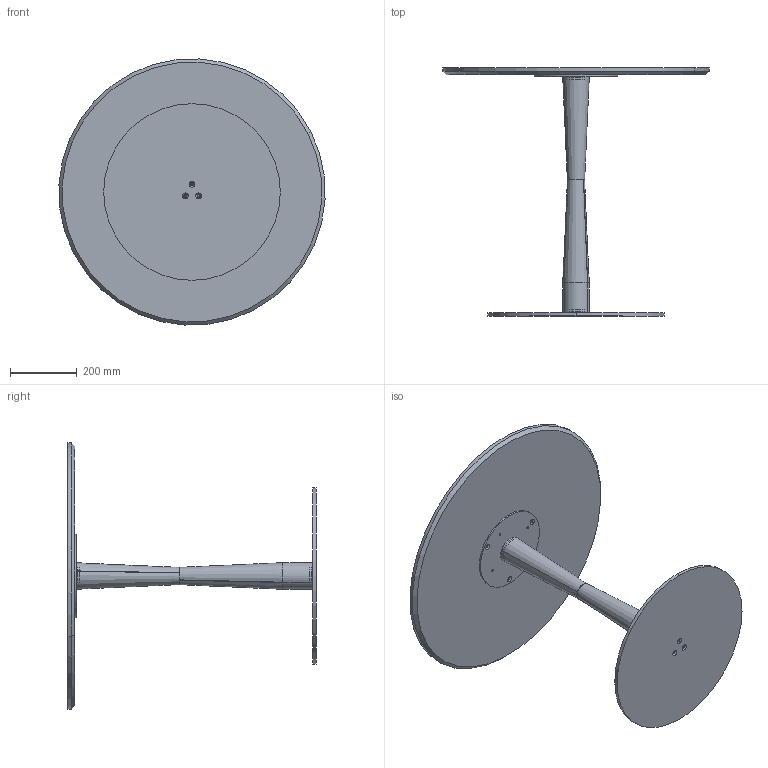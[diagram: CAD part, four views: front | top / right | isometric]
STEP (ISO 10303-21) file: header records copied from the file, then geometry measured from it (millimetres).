
FILE_DESCRIPTION (( 'STEP AP203' ), '1' );
FILE_NAME ('FI20M.STEP', '2024-08-08T08:00:22', ( '' ), ( '' ), 'SwSTEP 2.0', 'SolidWorks 2022', '' );
FILE_SCHEMA (( 'CONFIG_CONTROL_DESIGN' ));
Length unit declared in the file: millimetre
Products named in the file (8): CBS000000BAS-00-BISTRO PIASTRA INFERIORE_D.530; CBS200000PST-00-CONTROPIASTRA PER PIASTRA D.25cm GREZZO_250; FIL000000_02-00-Tubo Conificato inferiore_tagliato; FIL000000_01-00-Tubo Conificato superiore_tagliato; FIL000000COL-01-FILU'' COLONNA CENTRALE; M0X-00- D. piani marmo_D.800; FIL000000_03-00-Piastra per Tubi conificati FILU; FI20M
Assembly tree (8 placements, depth 3):
  FI20M
    CBS000000BAS-00-BISTRO PIASTRA INFERIORE_D.530
    CBS200000PST-00-CONTROPIASTRA PER PIASTRA D.25cm GREZZO_250
    FIL000000COL-01-FILU'' COLONNA CENTRALE
      FIL000000_02-00-Tubo Conificato inferiore_tagliato
      FIL000000_01-00-Tubo Conificato superiore_tagliato
      FIL000000_03-00-Piastra per Tubi conificati FILU  x2
    M0X-00- D. piani marmo_D.800
Bounding box: 798.83 x 745 x 798.83 mm (x, y, z)
Volume: 12706521.4 mm3; surface area: 1917875.2 mm2
Topology: 7 solids, 7 shells, 120 faces, 278 edges, 168 vertices
Faces by surface type: cylinder 62, cone 44, plane 14
Entity records: 4052 total; most frequent: DIRECTION 638, CARTESIAN_POINT 520, ORIENTED_EDGE 492, AXIS2_PLACEMENT_3D 270, EDGE_CURVE 246, VERTEX_POINT 152, EDGE_LOOP 152, CIRCLE 148
